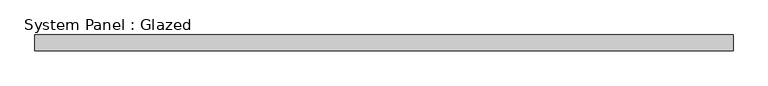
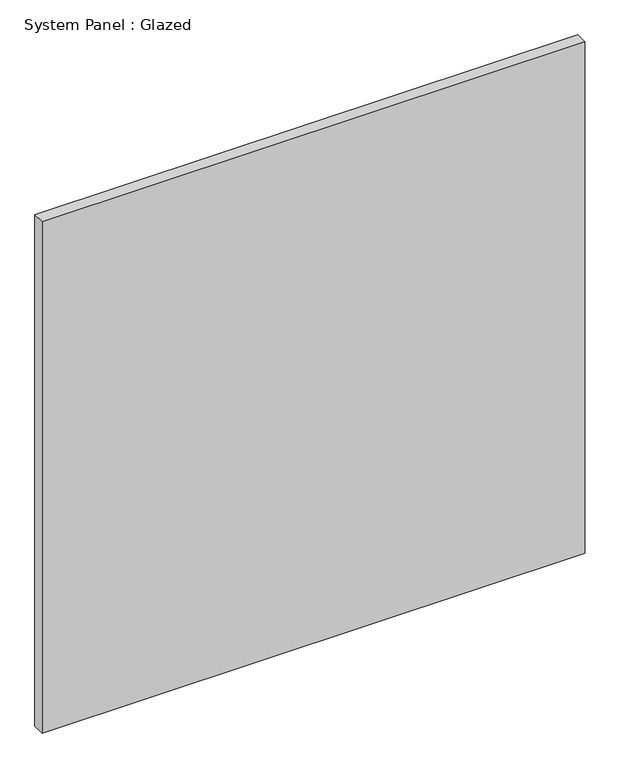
"""IFC4 building model written with IfcOpenShell, lengths in millimetres: plate geometry, System Panel : Glazed."""

from ifc_helpers import new_model, si_unit, origin, origin_with_axes, place, context, project, spatial, polyline, outline, extrude, source, transform, mapped, element, save


def system_panel_glazed_da602fa6(model_context):
    return source(origin(), model_context, "Body", "SweptSolid", [
        extrude(outline(polyline([(557.7829147, 19.05), (-557.7829147, 19.05), (-557.7829147, 44.45), (557.7829147, 44.45), (557.7829147, 19.05)])), origin_with_axes(), (0.0, 0.0, 1.0), 1111.25),
    ])


if __name__ == "__main__":
    model = new_model("IFC4")
    model_context = context("Model", 3, world=origin())
    ifc_project = project(units=[si_unit("LENGTHUNIT", "METRE", prefix="MILLI")], contexts=[model_context])
    site = spatial("IfcSite", under=ifc_project)
    building = spatial("IfcBuilding", under=site)
    placement = place(None, origin())
    system_panel_glazed_shape = system_panel_glazed_da602fa6(model_context)
    element("IfcPlate", 1, ObjectType="System Panel : Glazed", at=placement, inside=building, context=model_context, shape_type="MappedRepresentation", body=[
        mapped(system_panel_glazed_shape, transform((0.0, 0.0, 0.0), x_axis=(1.0, 0.0, 0.0), y_axis=(0.0, 1.0, 0.0), z_axis=(0.0, 0.0, 1.0))),
    ])
    save(model, "model.ifc")
